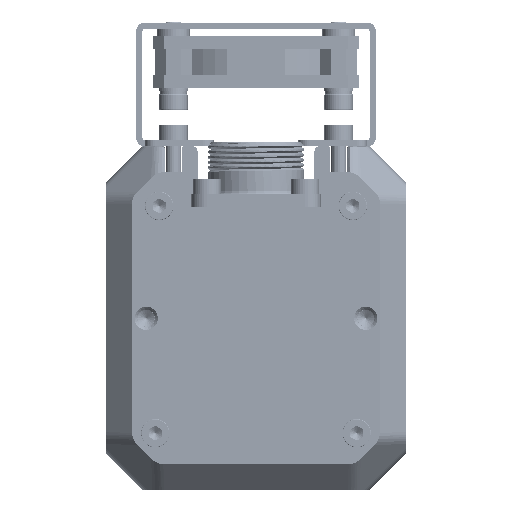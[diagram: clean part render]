
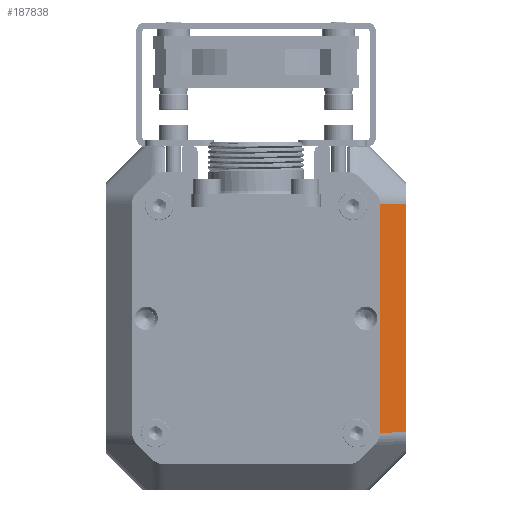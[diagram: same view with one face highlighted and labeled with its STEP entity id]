
A CAD part, front view. The second image highlights one B-rep face of the part: STEP entity #187838.
In plain terms, the highlighted planar face has unit normal (0.707, -0.707, 0).
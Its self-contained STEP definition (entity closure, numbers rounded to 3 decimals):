
#56600=CARTESIAN_POINT('',(24.,-535.,-11.065));
#56608=DIRECTION('',(-0.707,-0.707,0.02));
#56609=VECTOR('',#56608,7.072);
#56610=CARTESIAN_POINT('',(29.,-530.,-11.203));
#56611=LINE('',#56610,#56609);
#56612=DIRECTION('',(0.,0.,1.));
#56613=VECTOR('',#56612,44.094);
#56614=CARTESIAN_POINT('',(29.,-530.,-55.297));
#56615=LINE('',#56614,#56613);
#56616=DIRECTION('',(0.707,0.707,0.02));
#56617=VECTOR('',#56616,7.072);
#56618=CARTESIAN_POINT('',(24.,-535.,-55.435));
#56619=LINE('',#56618,#56617);
#56620=DIRECTION('',(0.,0.,-1.));
#56621=VECTOR('',#56620,44.371);
#56622=CARTESIAN_POINT('',(24.,-535.,-11.065));
#56623=LINE('',#56622,#56621);
#56634=CARTESIAN_POINT('',(29.,-530.,-55.297));
#71302=VERTEX_POINT('',#56600);
#71303=CARTESIAN_POINT('',(24.,-535.,-55.435));
#71304=VERTEX_POINT('',#71303);
#71370=VERTEX_POINT('',#56634);
#71371=CARTESIAN_POINT('',(29.,-530.,-11.203));
#71372=VERTEX_POINT('',#71371);
#187825=CARTESIAN_POINT('',(26.5,-532.5,-33.25));
#187826=DIRECTION('',(0.707,-0.707,0.));
#187827=DIRECTION('',(0.707,0.707,0.));
#187828=AXIS2_PLACEMENT_3D('',#187825,#187826,#187827);
#187829=PLANE('',#187828);
#187830=ORIENTED_EDGE('',*,*,#187816,.F.);
#187831=ORIENTED_EDGE('',*,*,#123658,.F.);
#187833=ORIENTED_EDGE('',*,*,#187832,.F.);
#187835=ORIENTED_EDGE('',*,*,#187834,.F.);
#187836=EDGE_LOOP('',(#187830,#187831,#187833,#187835));
#187837=FACE_OUTER_BOUND('',#187836,.F.);
#123658=EDGE_CURVE('',#71370,#71372,#56615,.T.);
#187816=EDGE_CURVE('',#71372,#71302,#56611,.T.);
#187832=EDGE_CURVE('',#71304,#71370,#56619,.T.);
#187834=EDGE_CURVE('',#71302,#71304,#56623,.T.);
#187838=ADVANCED_FACE('',(#187837),#187829,.T.);
